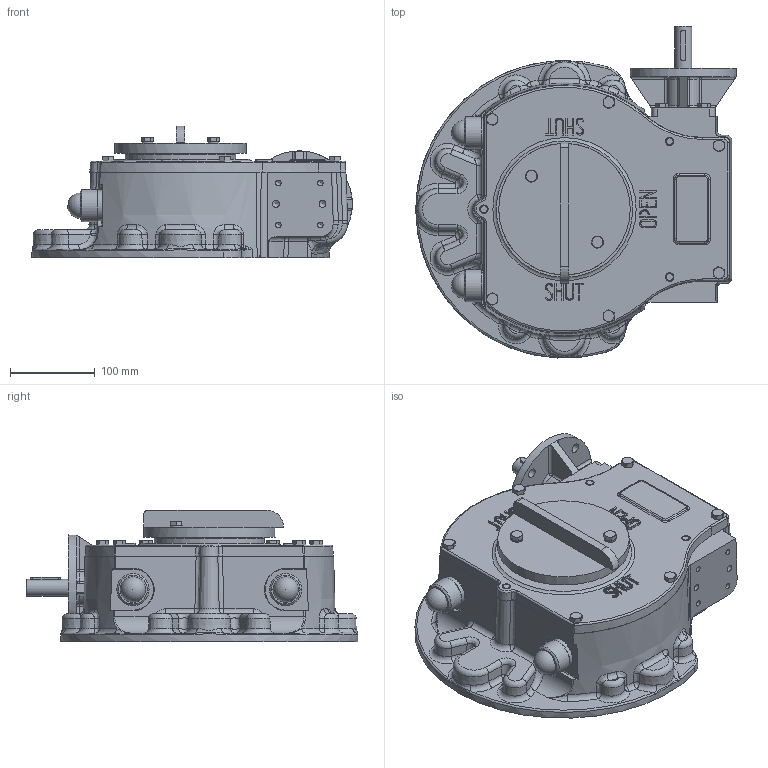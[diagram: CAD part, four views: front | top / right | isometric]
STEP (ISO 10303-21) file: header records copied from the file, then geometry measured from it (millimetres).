
FILE_DESCRIPTION( ( 'Unknown' ), '1' );
FILE_NAME( 'M:/Current Drawings/Internet datasheets/4 - STEP/E3000N LB LH.stp', 'Unknown', ( 'Unknown' ), ( 'Unknown' ), 'PSStep 15.0.49', 'Unknown', ' ' );
FILE_SCHEMA( ( 'AUTOMOTIVE_DESIGN { 1 0 10303 214 1 1 1 1 }' ) );
Length unit declared in the file: millimetre
Products named in the file (1): 600PAP2528300
Bounding box: 377.85 x 391.17 x 155 mm (x, y, z)
Volume: 6695256.3 mm3; surface area: 733255.5 mm2
Topology: 1 solids, 42 shells, 1643 faces, 4026 edges, 2385 vertices
Faces by surface type: plane 435, cylinder 344, cone 282, bspline 258, torus 202, sphere 106, extrusion 16
Full cylindrical faces by diameter (mm): 6.647 x32, 7.1 x4, 8 x16, 8.376 x4, 8.5 x6, 9 x6, 10 x6, 11 x4, 14 x2, 20 x3, 25 x4, 26 x2, 28 x2, 30 x2, 35 x2, 36 x2, 38 x4, 47 x2, 70 x1, 125 x1, 125.95 x2, 130 x6, 155 x1
Entity records: 94535 total; most frequent: CARTESIAN_POINT 47298, ORIENTED_EDGE 7138, DIRECTION 6672, EDGE_CURVE 3569, AXIS2_PLACEMENT_3D 2904, VERTEX_POINT 2280, EDGE_LOOP 1948, FACE_OUTER_BOUND 1786
